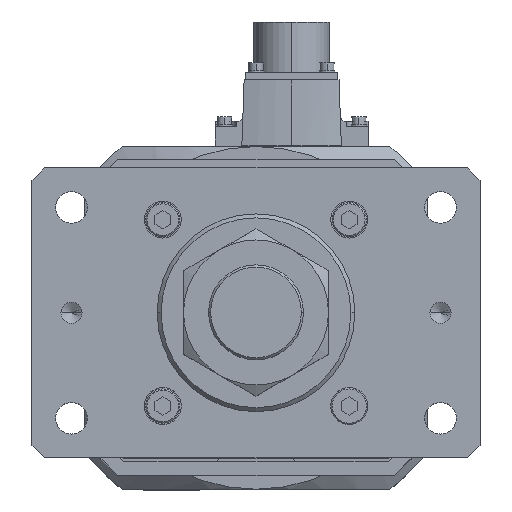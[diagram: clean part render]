
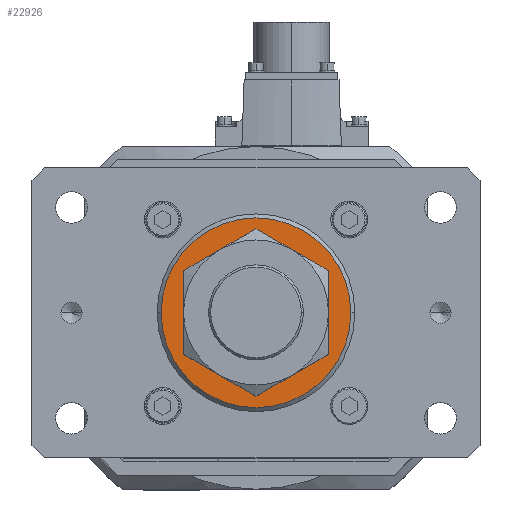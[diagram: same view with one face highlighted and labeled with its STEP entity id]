
A CAD part, top view. The second image highlights one B-rep face of the part: STEP entity #22926.
In plain terms, the highlighted planar face has unit normal (0, 0, 1).
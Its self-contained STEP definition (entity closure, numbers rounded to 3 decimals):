
#452 = DIRECTION ( 'NONE',  ( 0., 0., -1. ) ) ;
#482 = ORIENTED_EDGE ( 'NONE', *, *, #11487, .T. ) ;
#844 = DIRECTION ( 'NONE',  ( 0., 0., -1. ) ) ;
#3534 = AXIS2_PLACEMENT_3D ( 'NONE', #27417, #4650, #21621 ) ;
#3552 = CIRCLE ( 'NONE', #36126, 23. ) ;
#4062 = AXIS2_PLACEMENT_3D ( 'NONE', #29446, #32087, #14904 ) ;
#4650 = DIRECTION ( 'NONE',  ( 0., 0., 1. ) ) ;
#4680 = CARTESIAN_POINT ( 'NONE',  ( 23., 0., 846. ) ) ;
#6464 = EDGE_CURVE ( 'NONE', #27280, #35850, #23577, .T. ) ;
#6588 = AXIS2_PLACEMENT_3D ( 'NONE', #28722, #452, #34494 ) ;
#6941 = CARTESIAN_POINT ( 'NONE',  ( 0., 0., 846. ) ) ;
#8385 = ORIENTED_EDGE ( 'NONE', *, *, #15728, .T. ) ;
#9226 = DIRECTION ( 'NONE',  ( 0., 0., 1. ) ) ;
#11487 = EDGE_CURVE ( 'NONE', #30147, #35664, #24557, .T. ) ;
#12151 = EDGE_CURVE ( 'NONE', #35850, #27280, #16684, .T. ) ;
#12199 = DIRECTION ( 'NONE',  ( 1., 0., 0. ) ) ;
#12434 = CARTESIAN_POINT ( 'NONE',  ( -23., 0., 846. ) ) ;
#14798 = ORIENTED_EDGE ( 'NONE', *, *, #12151, .T. ) ;
#14904 = DIRECTION ( 'NONE',  ( 1., 0., 0. ) ) ;
#15728 = EDGE_CURVE ( 'NONE', #35664, #30147, #3552, .T. ) ;
#16684 = CIRCLE ( 'NONE', #3534, 36. ) ;
#20723 = PLANE ( 'NONE',  #31787 ) ;
#21621 = DIRECTION ( 'NONE',  ( 1., 0., 0. ) ) ;
#22843 = EDGE_LOOP ( 'NONE', ( #34095, #14798 ) ) ;
#22926 = ADVANCED_FACE ( 'NONE', ( #35631, #31157 ), #20723, .T. ) ;
#23231 = CARTESIAN_POINT ( 'NONE',  ( 0., 0., 846. ) ) ;
#23577 = CIRCLE ( 'NONE', #4062, 36. ) ;
#24557 = CIRCLE ( 'NONE', #6588, 23. ) ;
#26142 = CARTESIAN_POINT ( 'NONE',  ( -36., 0., 846. ) ) ;
#27280 = VERTEX_POINT ( 'NONE', #26142 ) ;
#27417 = CARTESIAN_POINT ( 'NONE',  ( 0., 0., 846. ) ) ;
#28722 = CARTESIAN_POINT ( 'NONE',  ( 0., 0., 846. ) ) ;
#29446 = CARTESIAN_POINT ( 'NONE',  ( 0., 0., 846. ) ) ;
#30147 = VERTEX_POINT ( 'NONE', #4680 ) ;
#31157 = FACE_OUTER_BOUND ( 'NONE', #22843, .T. ) ;
#31787 = AXIS2_PLACEMENT_3D ( 'NONE', #23231, #9226, #32139 ) ;
#32087 = DIRECTION ( 'NONE',  ( 0., 0., 1. ) ) ;
#32095 = EDGE_LOOP ( 'NONE', ( #482, #8385 ) ) ;
#32139 = DIRECTION ( 'NONE',  ( 1., 0., 0. ) ) ;
#34095 = ORIENTED_EDGE ( 'NONE', *, *, #6464, .T. ) ;
#34494 = DIRECTION ( 'NONE',  ( 1., 0., 0. ) ) ;
#35631 = FACE_BOUND ( 'NONE', #32095, .T. ) ;
#35664 = VERTEX_POINT ( 'NONE', #12434 ) ;
#35850 = VERTEX_POINT ( 'NONE', #35971 ) ;
#35971 = CARTESIAN_POINT ( 'NONE',  ( 36., 0., 846. ) ) ;
#36126 = AXIS2_PLACEMENT_3D ( 'NONE', #6941, #844, #12199 ) ;
